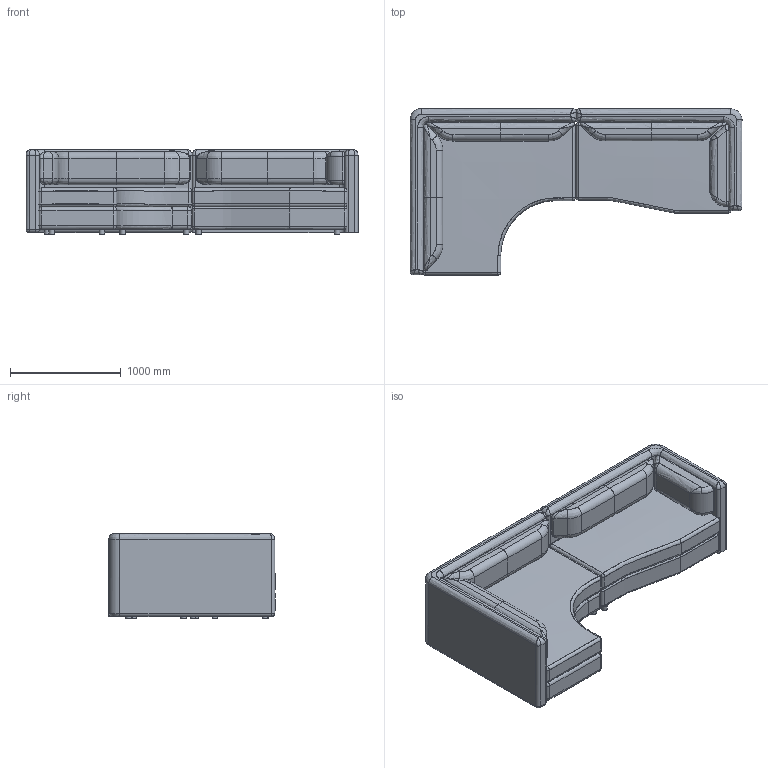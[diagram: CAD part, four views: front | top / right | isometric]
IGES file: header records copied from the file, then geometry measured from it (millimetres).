
Global section: file name: C:\Users\market02\Desktop\RYAN\VIRGULE\compo3\COMPO3.igs; native system: Rhinoceros ( Dec 14 2021 ); preprocessor: Trout Lake IGES 012 Dec 14 2021; date: 220919.080812; units: millimetre
Bounding box: 3000.02 x 1503.28 x 767.54 mm (x, y, z)
Surface area: 26346002.9 mm2 (no closed solid volume)
Topology: 0 solids, 0 shells, 366 faces, 2746 edges, 2710 vertices
Faces by surface type: bspline 366
